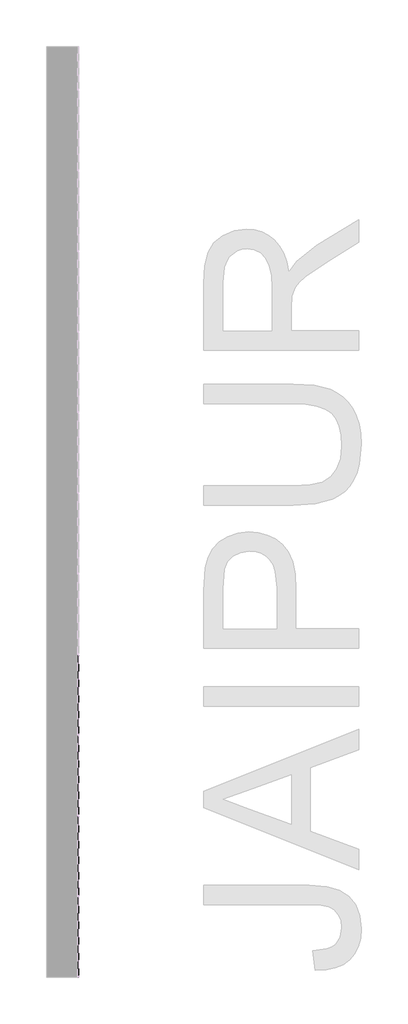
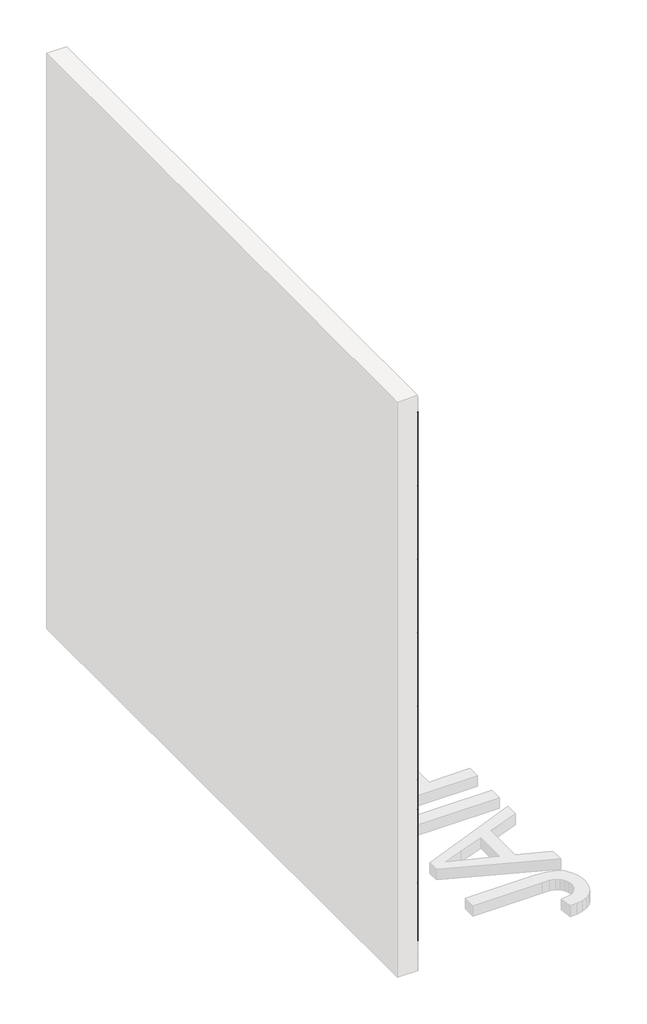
# One storey, part 15 of 45: 147 proxies.
"""IFC4 building model written with IfcOpenShell, lengths in millimetres."""

from ifc_helpers import new_model, si_unit, origin, place, context, project, spatial, transform, mapped, element, save
from components import generic_models_ab0f2c30

model = new_model("IFC4")

# Units and contexts
model_context = context("Model", 3, world=origin())
ifc_project = project(units=[si_unit("LENGTHUNIT", "METRE", prefix="MILLI")], contexts=[model_context])

# Site, building, storey
site = spatial("IfcSite", under=ifc_project)
building = spatial("IfcBuilding", under=site)
storey = spatial("IfcBuildingStorey", under=building, Name="PORTOBELLO - SHOWROOM", Elevation=0.0)

# Proxies
placement = place(None, origin())
generic_models_shape = generic_models_ab0f2c30(model_context)
element("IfcBuildingElementProxy", 1, Name="PBSHOP - HORIZONTES JAIPUR 6,5X23 : JAIPUR", ObjectType="PBSHOP - HORIZONTES JAIPUR 6,5X23 : JAIPUR", at=placement, inside=storey, context=model_context, shape_type="MappedRepresentation", body=[
    mapped(generic_models_shape, transform((69111.8826867, 1337.9760255, 103.5), x_axis=(0.0, 0.0, 1.0), y_axis=(0.0, -1.0, 0.0), z_axis=(1.0, 0.0, 0.0))),
])
element("IfcBuildingElementProxy", 2, Name="PBSHOP - HORIZONTES JAIPUR 6,5X23 : JAIPUR", ObjectType="PBSHOP - HORIZONTES JAIPUR 6,5X23 : JAIPUR", at=placement, inside=storey, context=model_context, shape_type="MappedRepresentation", body=[
    mapped(generic_models_shape, transform((69111.8826867, 1571.9760255, 103.5), x_axis=(0.0, 0.0, 1.0), y_axis=(0.0, -1.0, 0.0), z_axis=(1.0, 0.0, 0.0))),
])
element("IfcBuildingElementProxy", 3, Name="PBSHOP - HORIZONTES JAIPUR 6,5X23 : JAIPUR", ObjectType="PBSHOP - HORIZONTES JAIPUR 6,5X23 : JAIPUR", at=placement, inside=storey, context=model_context, shape_type="MappedRepresentation", body=[
    mapped(generic_models_shape, transform((69111.8826867, 1805.9760255, 103.5), x_axis=(0.0, 0.0, 1.0), y_axis=(0.0, -1.0, 0.0), z_axis=(1.0, 0.0, 0.0))),
])
element("IfcBuildingElementProxy", 4, Name="PBSHOP - HORIZONTES JAIPUR 6,5X23 : JAIPUR", ObjectType="PBSHOP - HORIZONTES JAIPUR 6,5X23 : JAIPUR", at=placement, inside=storey, context=model_context, shape_type="MappedRepresentation", body=[
    mapped(generic_models_shape, transform((69111.8826867, 1103.9760255, 172.5), x_axis=(0.0, 0.0, 1.0), y_axis=(0.0, -1.0, 0.0), z_axis=(1.0, 0.0, 0.0))),
])
element("IfcBuildingElementProxy", 5, Name="PBSHOP - HORIZONTES JAIPUR 6,5X23 : JAIPUR", ObjectType="PBSHOP - HORIZONTES JAIPUR 6,5X23 : JAIPUR", at=placement, inside=storey, context=model_context, shape_type="MappedRepresentation", body=[
    mapped(generic_models_shape, transform((69111.8826867, 1337.9760255, 172.5), x_axis=(0.0, 0.0, 1.0), y_axis=(0.0, -1.0, 0.0), z_axis=(1.0, 0.0, 0.0))),
])
element("IfcBuildingElementProxy", 6, Name="PBSHOP - HORIZONTES JAIPUR 6,5X23 : JAIPUR", ObjectType="PBSHOP - HORIZONTES JAIPUR 6,5X23 : JAIPUR", at=placement, inside=storey, context=model_context, shape_type="MappedRepresentation", body=[
    mapped(generic_models_shape, transform((69111.8826867, 1571.9760255, 172.5), x_axis=(0.0, 0.0, 1.0), y_axis=(0.0, -1.0, 0.0), z_axis=(1.0, 0.0, 0.0))),
])
element("IfcBuildingElementProxy", 7, Name="PBSHOP - HORIZONTES JAIPUR 6,5X23 : JAIPUR", ObjectType="PBSHOP - HORIZONTES JAIPUR 6,5X23 : JAIPUR", at=placement, inside=storey, context=model_context, shape_type="MappedRepresentation", body=[
    mapped(generic_models_shape, transform((69111.8826867, 1805.9760255, 172.5), x_axis=(0.0, 0.0, 1.0), y_axis=(0.0, -1.0, 0.0), z_axis=(1.0, 0.0, 0.0))),
])
element("IfcBuildingElementProxy", 8, Name="PBSHOP - HORIZONTES JAIPUR 6,5X23 : JAIPUR", ObjectType="PBSHOP - HORIZONTES JAIPUR 6,5X23 : JAIPUR", at=placement, inside=storey, context=model_context, shape_type="MappedRepresentation", body=[
    mapped(generic_models_shape, transform((69111.8826867, 1103.9760255, 241.5), x_axis=(0.0, 0.0, 1.0), y_axis=(0.0, -1.0, 0.0), z_axis=(1.0, 0.0, 0.0))),
])
element("IfcBuildingElementProxy", 9, Name="PBSHOP - HORIZONTES JAIPUR 6,5X23 : JAIPUR", ObjectType="PBSHOP - HORIZONTES JAIPUR 6,5X23 : JAIPUR", at=placement, inside=storey, context=model_context, shape_type="MappedRepresentation", body=[
    mapped(generic_models_shape, transform((69111.8826867, 1337.9760255, 241.5), x_axis=(0.0, 0.0, 1.0), y_axis=(0.0, -1.0, 0.0), z_axis=(1.0, 0.0, 0.0))),
])
element("IfcBuildingElementProxy", 10, Name="PBSHOP - HORIZONTES JAIPUR 6,5X23 : JAIPUR", ObjectType="PBSHOP - HORIZONTES JAIPUR 6,5X23 : JAIPUR", at=placement, inside=storey, context=model_context, shape_type="MappedRepresentation", body=[
    mapped(generic_models_shape, transform((69111.8826867, 1571.9760255, 241.5), x_axis=(0.0, 0.0, 1.0), y_axis=(0.0, -1.0, 0.0), z_axis=(1.0, 0.0, 0.0))),
])
element("IfcBuildingElementProxy", 11, Name="PBSHOP - HORIZONTES JAIPUR 6,5X23 : JAIPUR", ObjectType="PBSHOP - HORIZONTES JAIPUR 6,5X23 : JAIPUR", at=placement, inside=storey, context=model_context, shape_type="MappedRepresentation", body=[
    mapped(generic_models_shape, transform((69111.8826867, 1805.9760255, 241.5), x_axis=(0.0, 0.0, 1.0), y_axis=(0.0, -1.0, 0.0), z_axis=(1.0, 0.0, 0.0))),
])
element("IfcBuildingElementProxy", 12, Name="PBSHOP - HORIZONTES JAIPUR 6,5X23 : JAIPUR", ObjectType="PBSHOP - HORIZONTES JAIPUR 6,5X23 : JAIPUR", at=placement, inside=storey, context=model_context, shape_type="MappedRepresentation", body=[
    mapped(generic_models_shape, transform((69111.8826867, 1103.9760255, 310.5), x_axis=(0.0, 0.0, 1.0), y_axis=(0.0, -1.0, 0.0), z_axis=(1.0, 0.0, 0.0))),
])
element("IfcBuildingElementProxy", 13, Name="PBSHOP - HORIZONTES JAIPUR 6,5X23 : JAIPUR", ObjectType="PBSHOP - HORIZONTES JAIPUR 6,5X23 : JAIPUR", at=placement, inside=storey, context=model_context, shape_type="MappedRepresentation", body=[
    mapped(generic_models_shape, transform((69111.8826867, 1337.9760255, 310.5), x_axis=(0.0, 0.0, 1.0), y_axis=(0.0, -1.0, 0.0), z_axis=(1.0, 0.0, 0.0))),
])
element("IfcBuildingElementProxy", 14, Name="PBSHOP - HORIZONTES JAIPUR 6,5X23 : JAIPUR", ObjectType="PBSHOP - HORIZONTES JAIPUR 6,5X23 : JAIPUR", at=placement, inside=storey, context=model_context, shape_type="MappedRepresentation", body=[
    mapped(generic_models_shape, transform((69111.8826867, 1571.9760255, 310.5), x_axis=(0.0, 0.0, 1.0), y_axis=(0.0, -1.0, 0.0), z_axis=(1.0, 0.0, 0.0))),
])
element("IfcBuildingElementProxy", 15, Name="PBSHOP - HORIZONTES JAIPUR 6,5X23 : JAIPUR", ObjectType="PBSHOP - HORIZONTES JAIPUR 6,5X23 : JAIPUR", at=placement, inside=storey, context=model_context, shape_type="MappedRepresentation", body=[
    mapped(generic_models_shape, transform((69111.8826867, 1805.9760255, 310.5), x_axis=(0.0, 0.0, 1.0), y_axis=(0.0, -1.0, 0.0), z_axis=(1.0, 0.0, 0.0))),
])
element("IfcBuildingElementProxy", 16, Name="PBSHOP - HORIZONTES JAIPUR 6,5X23 : JAIPUR", ObjectType="PBSHOP - HORIZONTES JAIPUR 6,5X23 : JAIPUR", at=placement, inside=storey, context=model_context, shape_type="MappedRepresentation", body=[
    mapped(generic_models_shape, transform((69111.8826867, 1103.9760255, 379.5), x_axis=(0.0, 0.0, 1.0), y_axis=(0.0, -1.0, 0.0), z_axis=(1.0, 0.0, 0.0))),
])
element("IfcBuildingElementProxy", 17, Name="PBSHOP - HORIZONTES JAIPUR 6,5X23 : JAIPUR", ObjectType="PBSHOP - HORIZONTES JAIPUR 6,5X23 : JAIPUR", at=placement, inside=storey, context=model_context, shape_type="MappedRepresentation", body=[
    mapped(generic_models_shape, transform((69111.8826867, 1337.9760255, 379.5), x_axis=(0.0, 0.0, 1.0), y_axis=(0.0, -1.0, 0.0), z_axis=(1.0, 0.0, 0.0))),
])
element("IfcBuildingElementProxy", 18, Name="PBSHOP - HORIZONTES JAIPUR 6,5X23 : JAIPUR", ObjectType="PBSHOP - HORIZONTES JAIPUR 6,5X23 : JAIPUR", at=placement, inside=storey, context=model_context, shape_type="MappedRepresentation", body=[
    mapped(generic_models_shape, transform((69111.8826867, 1571.9760255, 379.5), x_axis=(0.0, 0.0, 1.0), y_axis=(0.0, -1.0, 0.0), z_axis=(1.0, 0.0, 0.0))),
])
element("IfcBuildingElementProxy", 19, Name="PBSHOP - HORIZONTES JAIPUR 6,5X23 : JAIPUR", ObjectType="PBSHOP - HORIZONTES JAIPUR 6,5X23 : JAIPUR", at=placement, inside=storey, context=model_context, shape_type="MappedRepresentation", body=[
    mapped(generic_models_shape, transform((69111.8826867, 1805.9760255, 379.5), x_axis=(0.0, 0.0, 1.0), y_axis=(0.0, -1.0, 0.0), z_axis=(1.0, 0.0, 0.0))),
])
element("IfcBuildingElementProxy", 20, Name="PBSHOP - HORIZONTES JAIPUR 6,5X23 : JAIPUR", ObjectType="PBSHOP - HORIZONTES JAIPUR 6,5X23 : JAIPUR", at=placement, inside=storey, context=model_context, shape_type="MappedRepresentation", body=[
    mapped(generic_models_shape, transform((69111.8826867, 1103.9760255, 448.5), x_axis=(0.0, 0.0, 1.0), y_axis=(0.0, -1.0, 0.0), z_axis=(1.0, 0.0, 0.0))),
])
element("IfcBuildingElementProxy", 21, Name="PBSHOP - HORIZONTES JAIPUR 6,5X23 : JAIPUR", ObjectType="PBSHOP - HORIZONTES JAIPUR 6,5X23 : JAIPUR", at=placement, inside=storey, context=model_context, shape_type="MappedRepresentation", body=[
    mapped(generic_models_shape, transform((69111.8826867, 1337.9760255, 448.5), x_axis=(0.0, 0.0, 1.0), y_axis=(0.0, -1.0, 0.0), z_axis=(1.0, 0.0, 0.0))),
])
element("IfcBuildingElementProxy", 22, Name="PBSHOP - HORIZONTES JAIPUR 6,5X23 : JAIPUR", ObjectType="PBSHOP - HORIZONTES JAIPUR 6,5X23 : JAIPUR", at=placement, inside=storey, context=model_context, shape_type="MappedRepresentation", body=[
    mapped(generic_models_shape, transform((69111.8826867, 1571.9760255, 448.5), x_axis=(0.0, 0.0, 1.0), y_axis=(0.0, -1.0, 0.0), z_axis=(1.0, 0.0, 0.0))),
])
element("IfcBuildingElementProxy", 23, Name="PBSHOP - HORIZONTES JAIPUR 6,5X23 : JAIPUR", ObjectType="PBSHOP - HORIZONTES JAIPUR 6,5X23 : JAIPUR", at=placement, inside=storey, context=model_context, shape_type="MappedRepresentation", body=[
    mapped(generic_models_shape, transform((69111.8826867, 1805.9760255, 448.5), x_axis=(0.0, 0.0, 1.0), y_axis=(0.0, -1.0, 0.0), z_axis=(1.0, 0.0, 0.0))),
])
element("IfcBuildingElementProxy", 24, Name="PBSHOP - HORIZONTES JAIPUR 6,5X23 : JAIPUR", ObjectType="PBSHOP - HORIZONTES JAIPUR 6,5X23 : JAIPUR", at=placement, inside=storey, context=model_context, shape_type="MappedRepresentation", body=[
    mapped(generic_models_shape, transform((69111.8826867, 1103.9760255, 517.5), x_axis=(0.0, 0.0, 1.0), y_axis=(0.0, -1.0, 0.0), z_axis=(1.0, 0.0, 0.0))),
])
element("IfcBuildingElementProxy", 25, Name="PBSHOP - HORIZONTES JAIPUR 6,5X23 : JAIPUR", ObjectType="PBSHOP - HORIZONTES JAIPUR 6,5X23 : JAIPUR", at=placement, inside=storey, context=model_context, shape_type="MappedRepresentation", body=[
    mapped(generic_models_shape, transform((69111.8826867, 1337.9760255, 517.5), x_axis=(0.0, 0.0, 1.0), y_axis=(0.0, -1.0, 0.0), z_axis=(1.0, 0.0, 0.0))),
])
element("IfcBuildingElementProxy", 26, Name="PBSHOP - HORIZONTES JAIPUR 6,5X23 : JAIPUR", ObjectType="PBSHOP - HORIZONTES JAIPUR 6,5X23 : JAIPUR", at=placement, inside=storey, context=model_context, shape_type="MappedRepresentation", body=[
    mapped(generic_models_shape, transform((69111.8826867, 1571.9760255, 517.5), x_axis=(0.0, 0.0, 1.0), y_axis=(0.0, -1.0, 0.0), z_axis=(1.0, 0.0, 0.0))),
])
element("IfcBuildingElementProxy", 27, Name="PBSHOP - HORIZONTES JAIPUR 6,5X23 : JAIPUR", ObjectType="PBSHOP - HORIZONTES JAIPUR 6,5X23 : JAIPUR", at=placement, inside=storey, context=model_context, shape_type="MappedRepresentation", body=[
    mapped(generic_models_shape, transform((69111.8826867, 1805.9760255, 517.5), x_axis=(0.0, 0.0, 1.0), y_axis=(0.0, -1.0, 0.0), z_axis=(1.0, 0.0, 0.0))),
])
element("IfcBuildingElementProxy", 28, Name="PBSHOP - HORIZONTES JAIPUR 6,5X23 : JAIPUR", ObjectType="PBSHOP - HORIZONTES JAIPUR 6,5X23 : JAIPUR", at=placement, inside=storey, context=model_context, shape_type="MappedRepresentation", body=[
    mapped(generic_models_shape, transform((69111.8826867, 1103.9760255, 586.5), x_axis=(0.0, 0.0, 1.0), y_axis=(0.0, -1.0, 0.0), z_axis=(1.0, 0.0, 0.0))),
])
element("IfcBuildingElementProxy", 29, Name="PBSHOP - HORIZONTES JAIPUR 6,5X23 : JAIPUR", ObjectType="PBSHOP - HORIZONTES JAIPUR 6,5X23 : JAIPUR", at=placement, inside=storey, context=model_context, shape_type="MappedRepresentation", body=[
    mapped(generic_models_shape, transform((69111.8826867, 1337.9760255, 586.5), x_axis=(0.0, 0.0, 1.0), y_axis=(0.0, -1.0, 0.0), z_axis=(1.0, 0.0, 0.0))),
])
element("IfcBuildingElementProxy", 30, Name="PBSHOP - HORIZONTES JAIPUR 6,5X23 : JAIPUR", ObjectType="PBSHOP - HORIZONTES JAIPUR 6,5X23 : JAIPUR", at=placement, inside=storey, context=model_context, shape_type="MappedRepresentation", body=[
    mapped(generic_models_shape, transform((69111.8826867, 1571.9760255, 586.5), x_axis=(0.0, 0.0, 1.0), y_axis=(0.0, -1.0, 0.0), z_axis=(1.0, 0.0, 0.0))),
])
element("IfcBuildingElementProxy", 31, Name="PBSHOP - HORIZONTES JAIPUR 6,5X23 : JAIPUR", ObjectType="PBSHOP - HORIZONTES JAIPUR 6,5X23 : JAIPUR", at=placement, inside=storey, context=model_context, shape_type="MappedRepresentation", body=[
    mapped(generic_models_shape, transform((69111.8826867, 1805.9760255, 586.5), x_axis=(0.0, 0.0, 1.0), y_axis=(0.0, -1.0, 0.0), z_axis=(1.0, 0.0, 0.0))),
])
element("IfcBuildingElementProxy", 32, Name="PBSHOP - HORIZONTES JAIPUR 6,5X23 : JAIPUR", ObjectType="PBSHOP - HORIZONTES JAIPUR 6,5X23 : JAIPUR", at=placement, inside=storey, context=model_context, shape_type="MappedRepresentation", body=[
    mapped(generic_models_shape, transform((69111.8826867, 1103.9760255, 655.5), x_axis=(0.0, 0.0, 1.0), y_axis=(0.0, -1.0, 0.0), z_axis=(1.0, 0.0, 0.0))),
])
element("IfcBuildingElementProxy", 33, Name="PBSHOP - HORIZONTES JAIPUR 6,5X23 : JAIPUR", ObjectType="PBSHOP - HORIZONTES JAIPUR 6,5X23 : JAIPUR", at=placement, inside=storey, context=model_context, shape_type="MappedRepresentation", body=[
    mapped(generic_models_shape, transform((69111.8826867, 1337.9760255, 655.5), x_axis=(0.0, 0.0, 1.0), y_axis=(0.0, -1.0, 0.0), z_axis=(1.0, 0.0, 0.0))),
])
element("IfcBuildingElementProxy", 34, Name="PBSHOP - HORIZONTES JAIPUR 6,5X23 : JAIPUR", ObjectType="PBSHOP - HORIZONTES JAIPUR 6,5X23 : JAIPUR", at=placement, inside=storey, context=model_context, shape_type="MappedRepresentation", body=[
    mapped(generic_models_shape, transform((69111.8826867, 1571.9760255, 655.5), x_axis=(0.0, 0.0, 1.0), y_axis=(0.0, -1.0, 0.0), z_axis=(1.0, 0.0, 0.0))),
])
element("IfcBuildingElementProxy", 35, Name="PBSHOP - HORIZONTES JAIPUR 6,5X23 : JAIPUR", ObjectType="PBSHOP - HORIZONTES JAIPUR 6,5X23 : JAIPUR", at=placement, inside=storey, context=model_context, shape_type="MappedRepresentation", body=[
    mapped(generic_models_shape, transform((69111.8826867, 1805.9760255, 655.5), x_axis=(0.0, 0.0, 1.0), y_axis=(0.0, -1.0, 0.0), z_axis=(1.0, 0.0, 0.0))),
])
element("IfcBuildingElementProxy", 36, Name="PBSHOP - HORIZONTES JAIPUR 6,5X23 : JAIPUR", ObjectType="PBSHOP - HORIZONTES JAIPUR 6,5X23 : JAIPUR", at=placement, inside=storey, context=model_context, shape_type="MappedRepresentation", body=[
    mapped(generic_models_shape, transform((69111.8826867, 1103.9760255, 724.5), x_axis=(0.0, 0.0, 1.0), y_axis=(0.0, -1.0, 0.0), z_axis=(1.0, 0.0, 0.0))),
])
element("IfcBuildingElementProxy", 37, Name="PBSHOP - HORIZONTES JAIPUR 6,5X23 : JAIPUR", ObjectType="PBSHOP - HORIZONTES JAIPUR 6,5X23 : JAIPUR", at=placement, inside=storey, context=model_context, shape_type="MappedRepresentation", body=[
    mapped(generic_models_shape, transform((69111.8826867, 1337.9760255, 724.5), x_axis=(0.0, 0.0, 1.0), y_axis=(0.0, -1.0, 0.0), z_axis=(1.0, 0.0, 0.0))),
])
element("IfcBuildingElementProxy", 38, Name="PBSHOP - HORIZONTES JAIPUR 6,5X23 : JAIPUR", ObjectType="PBSHOP - HORIZONTES JAIPUR 6,5X23 : JAIPUR", at=placement, inside=storey, context=model_context, shape_type="MappedRepresentation", body=[
    mapped(generic_models_shape, transform((69111.8826867, 1571.9760255, 724.5), x_axis=(0.0, 0.0, 1.0), y_axis=(0.0, -1.0, 0.0), z_axis=(1.0, 0.0, 0.0))),
])
element("IfcBuildingElementProxy", 39, Name="PBSHOP - HORIZONTES JAIPUR 6,5X23 : JAIPUR", ObjectType="PBSHOP - HORIZONTES JAIPUR 6,5X23 : JAIPUR", at=placement, inside=storey, context=model_context, shape_type="MappedRepresentation", body=[
    mapped(generic_models_shape, transform((69111.8826867, 1805.9760255, 724.5), x_axis=(0.0, 0.0, 1.0), y_axis=(0.0, -1.0, 0.0), z_axis=(1.0, 0.0, 0.0))),
])
element("IfcBuildingElementProxy", 40, Name="PBSHOP - HORIZONTES JAIPUR 6,5X23 : JAIPUR", ObjectType="PBSHOP - HORIZONTES JAIPUR 6,5X23 : JAIPUR", at=placement, inside=storey, context=model_context, shape_type="MappedRepresentation", body=[
    mapped(generic_models_shape, transform((69111.8826867, 1103.9760255, 793.5), x_axis=(0.0, 0.0, 1.0), y_axis=(0.0, -1.0, 0.0), z_axis=(1.0, 0.0, 0.0))),
])
element("IfcBuildingElementProxy", 41, Name="PBSHOP - HORIZONTES JAIPUR 6,5X23 : JAIPUR", ObjectType="PBSHOP - HORIZONTES JAIPUR 6,5X23 : JAIPUR", at=placement, inside=storey, context=model_context, shape_type="MappedRepresentation", body=[
    mapped(generic_models_shape, transform((69111.8826867, 1337.9760255, 793.5), x_axis=(0.0, 0.0, 1.0), y_axis=(0.0, -1.0, 0.0), z_axis=(1.0, 0.0, 0.0))),
])
element("IfcBuildingElementProxy", 42, Name="PBSHOP - HORIZONTES JAIPUR 6,5X23 : JAIPUR", ObjectType="PBSHOP - HORIZONTES JAIPUR 6,5X23 : JAIPUR", at=placement, inside=storey, context=model_context, shape_type="MappedRepresentation", body=[
    mapped(generic_models_shape, transform((69111.8826867, 1571.9760255, 793.5), x_axis=(0.0, 0.0, 1.0), y_axis=(0.0, -1.0, 0.0), z_axis=(1.0, 0.0, 0.0))),
])
element("IfcBuildingElementProxy", 43, Name="PBSHOP - HORIZONTES JAIPUR 6,5X23 : JAIPUR", ObjectType="PBSHOP - HORIZONTES JAIPUR 6,5X23 : JAIPUR", at=placement, inside=storey, context=model_context, shape_type="MappedRepresentation", body=[
    mapped(generic_models_shape, transform((69111.8826867, 1805.9760255, 793.5), x_axis=(0.0, 0.0, 1.0), y_axis=(0.0, -1.0, 0.0), z_axis=(1.0, 0.0, 0.0))),
])
element("IfcBuildingElementProxy", 44, Name="PBSHOP - HORIZONTES JAIPUR 6,5X23 : JAIPUR", ObjectType="PBSHOP - HORIZONTES JAIPUR 6,5X23 : JAIPUR", at=placement, inside=storey, context=model_context, shape_type="MappedRepresentation", body=[
    mapped(generic_models_shape, transform((69111.8826867, 1103.9760255, 862.5), x_axis=(0.0, 0.0, 1.0), y_axis=(0.0, -1.0, 0.0), z_axis=(1.0, 0.0, 0.0))),
])
element("IfcBuildingElementProxy", 45, Name="PBSHOP - HORIZONTES JAIPUR 6,5X23 : JAIPUR", ObjectType="PBSHOP - HORIZONTES JAIPUR 6,5X23 : JAIPUR", at=placement, inside=storey, context=model_context, shape_type="MappedRepresentation", body=[
    mapped(generic_models_shape, transform((69111.8826867, 1337.9760255, 862.5), x_axis=(0.0, 0.0, 1.0), y_axis=(0.0, -1.0, 0.0), z_axis=(1.0, 0.0, 0.0))),
])
element("IfcBuildingElementProxy", 46, Name="PBSHOP - HORIZONTES JAIPUR 6,5X23 : JAIPUR", ObjectType="PBSHOP - HORIZONTES JAIPUR 6,5X23 : JAIPUR", at=placement, inside=storey, context=model_context, shape_type="MappedRepresentation", body=[
    mapped(generic_models_shape, transform((69111.8826867, 1571.9760255, 862.5), x_axis=(0.0, 0.0, 1.0), y_axis=(0.0, -1.0, 0.0), z_axis=(1.0, 0.0, 0.0))),
])
element("IfcBuildingElementProxy", 47, Name="PBSHOP - HORIZONTES JAIPUR 6,5X23 : JAIPUR", ObjectType="PBSHOP - HORIZONTES JAIPUR 6,5X23 : JAIPUR", at=placement, inside=storey, context=model_context, shape_type="MappedRepresentation", body=[
    mapped(generic_models_shape, transform((69111.8826867, 1805.9760255, 862.5), x_axis=(0.0, 0.0, 1.0), y_axis=(0.0, -1.0, 0.0), z_axis=(1.0, 0.0, 0.0))),
])
element("IfcBuildingElementProxy", 48, Name="PBSHOP - HORIZONTES JAIPUR 6,5X23 : JAIPUR", ObjectType="PBSHOP - HORIZONTES JAIPUR 6,5X23 : JAIPUR", at=placement, inside=storey, context=model_context, shape_type="MappedRepresentation", body=[
    mapped(generic_models_shape, transform((69111.8826867, 1103.9760255, 931.5), x_axis=(0.0, 0.0, 1.0), y_axis=(0.0, -1.0, 0.0), z_axis=(1.0, 0.0, 0.0))),
])
element("IfcBuildingElementProxy", 49, Name="PBSHOP - HORIZONTES JAIPUR 6,5X23 : JAIPUR", ObjectType="PBSHOP - HORIZONTES JAIPUR 6,5X23 : JAIPUR", at=placement, inside=storey, context=model_context, shape_type="MappedRepresentation", body=[
    mapped(generic_models_shape, transform((69111.8826867, 1337.9760255, 931.5), x_axis=(0.0, 0.0, 1.0), y_axis=(0.0, -1.0, 0.0), z_axis=(1.0, 0.0, 0.0))),
])
element("IfcBuildingElementProxy", 50, Name="PBSHOP - HORIZONTES JAIPUR 6,5X23 : JAIPUR", ObjectType="PBSHOP - HORIZONTES JAIPUR 6,5X23 : JAIPUR", at=placement, inside=storey, context=model_context, shape_type="MappedRepresentation", body=[
    mapped(generic_models_shape, transform((69111.8826867, 1571.9760255, 931.5), x_axis=(0.0, 0.0, 1.0), y_axis=(0.0, -1.0, 0.0), z_axis=(1.0, 0.0, 0.0))),
])
element("IfcBuildingElementProxy", 51, Name="PBSHOP - HORIZONTES JAIPUR 6,5X23 : JAIPUR", ObjectType="PBSHOP - HORIZONTES JAIPUR 6,5X23 : JAIPUR", at=placement, inside=storey, context=model_context, shape_type="MappedRepresentation", body=[
    mapped(generic_models_shape, transform((69111.8826867, 1805.9760255, 931.5), x_axis=(0.0, 0.0, 1.0), y_axis=(0.0, -1.0, 0.0), z_axis=(1.0, 0.0, 0.0))),
])
element("IfcBuildingElementProxy", 52, Name="PBSHOP - HORIZONTES JAIPUR 6,5X23 : JAIPUR", ObjectType="PBSHOP - HORIZONTES JAIPUR 6,5X23 : JAIPUR", at=placement, inside=storey, context=model_context, shape_type="MappedRepresentation", body=[
    mapped(generic_models_shape, transform((69111.8826867, 1103.9760255, 1000.5), x_axis=(0.0, 0.0, 1.0), y_axis=(0.0, -1.0, 0.0), z_axis=(1.0, 0.0, 0.0))),
])
element("IfcBuildingElementProxy", 53, Name="PBSHOP - HORIZONTES JAIPUR 6,5X23 : JAIPUR", ObjectType="PBSHOP - HORIZONTES JAIPUR 6,5X23 : JAIPUR", at=placement, inside=storey, context=model_context, shape_type="MappedRepresentation", body=[
    mapped(generic_models_shape, transform((69111.8826867, 1337.9760255, 1000.5), x_axis=(0.0, 0.0, 1.0), y_axis=(0.0, -1.0, 0.0), z_axis=(1.0, 0.0, 0.0))),
])
element("IfcBuildingElementProxy", 54, Name="PBSHOP - HORIZONTES JAIPUR 6,5X23 : JAIPUR", ObjectType="PBSHOP - HORIZONTES JAIPUR 6,5X23 : JAIPUR", at=placement, inside=storey, context=model_context, shape_type="MappedRepresentation", body=[
    mapped(generic_models_shape, transform((69111.8826867, 1571.9760255, 1000.5), x_axis=(0.0, 0.0, 1.0), y_axis=(0.0, -1.0, 0.0), z_axis=(1.0, 0.0, 0.0))),
])
element("IfcBuildingElementProxy", 55, Name="PBSHOP - HORIZONTES JAIPUR 6,5X23 : JAIPUR", ObjectType="PBSHOP - HORIZONTES JAIPUR 6,5X23 : JAIPUR", at=placement, inside=storey, context=model_context, shape_type="MappedRepresentation", body=[
    mapped(generic_models_shape, transform((69111.8826867, 1805.9760255, 1000.5), x_axis=(0.0, 0.0, 1.0), y_axis=(0.0, -1.0, 0.0), z_axis=(1.0, 0.0, 0.0))),
])
element("IfcBuildingElementProxy", 56, Name="PBSHOP - HORIZONTES JAIPUR 6,5X23 : JAIPUR", ObjectType="PBSHOP - HORIZONTES JAIPUR 6,5X23 : JAIPUR", at=placement, inside=storey, context=model_context, shape_type="MappedRepresentation", body=[
    mapped(generic_models_shape, transform((69111.8826867, 1103.9760255, 1069.5), x_axis=(0.0, 0.0, 1.0), y_axis=(0.0, -1.0, 0.0), z_axis=(1.0, 0.0, 0.0))),
])
element("IfcBuildingElementProxy", 57, Name="PBSHOP - HORIZONTES JAIPUR 6,5X23 : JAIPUR", ObjectType="PBSHOP - HORIZONTES JAIPUR 6,5X23 : JAIPUR", at=placement, inside=storey, context=model_context, shape_type="MappedRepresentation", body=[
    mapped(generic_models_shape, transform((69111.8826867, 1337.9760255, 1069.5), x_axis=(0.0, 0.0, 1.0), y_axis=(0.0, -1.0, 0.0), z_axis=(1.0, 0.0, 0.0))),
])
element("IfcBuildingElementProxy", 58, Name="PBSHOP - HORIZONTES JAIPUR 6,5X23 : JAIPUR", ObjectType="PBSHOP - HORIZONTES JAIPUR 6,5X23 : JAIPUR", at=placement, inside=storey, context=model_context, shape_type="MappedRepresentation", body=[
    mapped(generic_models_shape, transform((69111.8826867, 1571.9760255, 1069.5), x_axis=(0.0, 0.0, 1.0), y_axis=(0.0, -1.0, 0.0), z_axis=(1.0, 0.0, 0.0))),
])
element("IfcBuildingElementProxy", 59, Name="PBSHOP - HORIZONTES JAIPUR 6,5X23 : JAIPUR", ObjectType="PBSHOP - HORIZONTES JAIPUR 6,5X23 : JAIPUR", at=placement, inside=storey, context=model_context, shape_type="MappedRepresentation", body=[
    mapped(generic_models_shape, transform((69111.8826867, 1805.9760255, 1069.5), x_axis=(0.0, 0.0, 1.0), y_axis=(0.0, -1.0, 0.0), z_axis=(1.0, 0.0, 0.0))),
])
element("IfcBuildingElementProxy", 60, Name="PBSHOP - HORIZONTES JAIPUR 6,5X23 : JAIPUR", ObjectType="PBSHOP - HORIZONTES JAIPUR 6,5X23 : JAIPUR", at=placement, inside=storey, context=model_context, shape_type="MappedRepresentation", body=[
    mapped(generic_models_shape, transform((69111.8826867, 1103.9760255, 1138.5), x_axis=(0.0, 0.0, 1.0), y_axis=(0.0, -1.0, 0.0), z_axis=(1.0, 0.0, 0.0))),
])
element("IfcBuildingElementProxy", 61, Name="PBSHOP - HORIZONTES JAIPUR 6,5X23 : JAIPUR", ObjectType="PBSHOP - HORIZONTES JAIPUR 6,5X23 : JAIPUR", at=placement, inside=storey, context=model_context, shape_type="MappedRepresentation", body=[
    mapped(generic_models_shape, transform((69111.8826867, 1337.9760255, 1138.5), x_axis=(0.0, 0.0, 1.0), y_axis=(0.0, -1.0, 0.0), z_axis=(1.0, 0.0, 0.0))),
])
element("IfcBuildingElementProxy", 62, Name="PBSHOP - HORIZONTES JAIPUR 6,5X23 : JAIPUR", ObjectType="PBSHOP - HORIZONTES JAIPUR 6,5X23 : JAIPUR", at=placement, inside=storey, context=model_context, shape_type="MappedRepresentation", body=[
    mapped(generic_models_shape, transform((69111.8826867, 1571.9760255, 1138.5), x_axis=(0.0, 0.0, 1.0), y_axis=(0.0, -1.0, 0.0), z_axis=(1.0, 0.0, 0.0))),
])
element("IfcBuildingElementProxy", 63, Name="PBSHOP - HORIZONTES JAIPUR 6,5X23 : JAIPUR", ObjectType="PBSHOP - HORIZONTES JAIPUR 6,5X23 : JAIPUR", at=placement, inside=storey, context=model_context, shape_type="MappedRepresentation", body=[
    mapped(generic_models_shape, transform((69111.8826867, 1805.9760255, 1138.5), x_axis=(0.0, 0.0, 1.0), y_axis=(0.0, -1.0, 0.0), z_axis=(1.0, 0.0, 0.0))),
])
element("IfcBuildingElementProxy", 64, Name="PBSHOP - HORIZONTES JAIPUR 6,5X23 : JAIPUR", ObjectType="PBSHOP - HORIZONTES JAIPUR 6,5X23 : JAIPUR", at=placement, inside=storey, context=model_context, shape_type="MappedRepresentation", body=[
    mapped(generic_models_shape, transform((69111.8826867, 1103.9760255, 1207.5), x_axis=(0.0, 0.0, 1.0), y_axis=(0.0, -1.0, 0.0), z_axis=(1.0, 0.0, 0.0))),
])
element("IfcBuildingElementProxy", 65, Name="PBSHOP - HORIZONTES JAIPUR 6,5X23 : JAIPUR", ObjectType="PBSHOP - HORIZONTES JAIPUR 6,5X23 : JAIPUR", at=placement, inside=storey, context=model_context, shape_type="MappedRepresentation", body=[
    mapped(generic_models_shape, transform((69111.8826867, 1337.9760255, 1207.5), x_axis=(0.0, 0.0, 1.0), y_axis=(0.0, -1.0, 0.0), z_axis=(1.0, 0.0, 0.0))),
])
element("IfcBuildingElementProxy", 66, Name="PBSHOP - HORIZONTES JAIPUR 6,5X23 : JAIPUR", ObjectType="PBSHOP - HORIZONTES JAIPUR 6,5X23 : JAIPUR", at=placement, inside=storey, context=model_context, shape_type="MappedRepresentation", body=[
    mapped(generic_models_shape, transform((69111.8826867, 1571.9760255, 1207.5), x_axis=(0.0, 0.0, 1.0), y_axis=(0.0, -1.0, 0.0), z_axis=(1.0, 0.0, 0.0))),
])
element("IfcBuildingElementProxy", 67, Name="PBSHOP - HORIZONTES JAIPUR 6,5X23 : JAIPUR", ObjectType="PBSHOP - HORIZONTES JAIPUR 6,5X23 : JAIPUR", at=placement, inside=storey, context=model_context, shape_type="MappedRepresentation", body=[
    mapped(generic_models_shape, transform((69111.8826867, 1805.9760255, 1207.5), x_axis=(0.0, 0.0, 1.0), y_axis=(0.0, -1.0, 0.0), z_axis=(1.0, 0.0, 0.0))),
])
element("IfcBuildingElementProxy", 68, Name="PBSHOP - HORIZONTES JAIPUR 6,5X23 : JAIPUR", ObjectType="PBSHOP - HORIZONTES JAIPUR 6,5X23 : JAIPUR", at=placement, inside=storey, context=model_context, shape_type="MappedRepresentation", body=[
    mapped(generic_models_shape, transform((69111.8826867, 1103.9760255, 1276.5), x_axis=(0.0, 0.0, 1.0), y_axis=(0.0, -1.0, 0.0), z_axis=(1.0, 0.0, 0.0))),
])
element("IfcBuildingElementProxy", 69, Name="PBSHOP - HORIZONTES JAIPUR 6,5X23 : JAIPUR", ObjectType="PBSHOP - HORIZONTES JAIPUR 6,5X23 : JAIPUR", at=placement, inside=storey, context=model_context, shape_type="MappedRepresentation", body=[
    mapped(generic_models_shape, transform((69111.8826867, 1337.9760255, 1276.5), x_axis=(0.0, 0.0, 1.0), y_axis=(0.0, -1.0, 0.0), z_axis=(1.0, 0.0, 0.0))),
])
element("IfcBuildingElementProxy", 70, Name="PBSHOP - HORIZONTES JAIPUR 6,5X23 : JAIPUR", ObjectType="PBSHOP - HORIZONTES JAIPUR 6,5X23 : JAIPUR", at=placement, inside=storey, context=model_context, shape_type="MappedRepresentation", body=[
    mapped(generic_models_shape, transform((69111.8826867, 1571.9760255, 1276.5), x_axis=(0.0, 0.0, 1.0), y_axis=(0.0, -1.0, 0.0), z_axis=(1.0, 0.0, 0.0))),
])
element("IfcBuildingElementProxy", 71, Name="PBSHOP - HORIZONTES JAIPUR 6,5X23 : JAIPUR", ObjectType="PBSHOP - HORIZONTES JAIPUR 6,5X23 : JAIPUR", at=placement, inside=storey, context=model_context, shape_type="MappedRepresentation", body=[
    mapped(generic_models_shape, transform((69111.8826867, 1805.9760255, 1276.5), x_axis=(0.0, 0.0, 1.0), y_axis=(0.0, -1.0, 0.0), z_axis=(1.0, 0.0, 0.0))),
])
element("IfcBuildingElementProxy", 72, Name="PBSHOP - HORIZONTES JAIPUR 6,5X23 : JAIPUR", ObjectType="PBSHOP - HORIZONTES JAIPUR 6,5X23 : JAIPUR", at=placement, inside=storey, context=model_context, shape_type="MappedRepresentation", body=[
    mapped(generic_models_shape, transform((69111.8826867, 1103.9760255, 1345.5), x_axis=(0.0, 0.0, 1.0), y_axis=(0.0, -1.0, 0.0), z_axis=(1.0, 0.0, 0.0))),
])
element("IfcBuildingElementProxy", 73, Name="PBSHOP - HORIZONTES JAIPUR 6,5X23 : JAIPUR", ObjectType="PBSHOP - HORIZONTES JAIPUR 6,5X23 : JAIPUR", at=placement, inside=storey, context=model_context, shape_type="MappedRepresentation", body=[
    mapped(generic_models_shape, transform((69111.8826867, 1337.9760255, 1345.5), x_axis=(0.0, 0.0, 1.0), y_axis=(0.0, -1.0, 0.0), z_axis=(1.0, 0.0, 0.0))),
])
element("IfcBuildingElementProxy", 74, Name="PBSHOP - HORIZONTES JAIPUR 6,5X23 : JAIPUR", ObjectType="PBSHOP - HORIZONTES JAIPUR 6,5X23 : JAIPUR", at=placement, inside=storey, context=model_context, shape_type="MappedRepresentation", body=[
    mapped(generic_models_shape, transform((69111.8826867, 1571.9760255, 1345.5), x_axis=(0.0, 0.0, 1.0), y_axis=(0.0, -1.0, 0.0), z_axis=(1.0, 0.0, 0.0))),
])
element("IfcBuildingElementProxy", 75, Name="PBSHOP - HORIZONTES JAIPUR 6,5X23 : JAIPUR", ObjectType="PBSHOP - HORIZONTES JAIPUR 6,5X23 : JAIPUR", at=placement, inside=storey, context=model_context, shape_type="MappedRepresentation", body=[
    mapped(generic_models_shape, transform((69111.8826867, 1805.9760255, 1345.5), x_axis=(0.0, 0.0, 1.0), y_axis=(0.0, -1.0, 0.0), z_axis=(1.0, 0.0, 0.0))),
])
element("IfcBuildingElementProxy", 76, Name="PBSHOP - HORIZONTES JAIPUR 6,5X23 : JAIPUR", ObjectType="PBSHOP - HORIZONTES JAIPUR 6,5X23 : JAIPUR", at=placement, inside=storey, context=model_context, shape_type="MappedRepresentation", body=[
    mapped(generic_models_shape, transform((69111.8826867, 1103.9760255, 1414.5), x_axis=(0.0, 0.0, 1.0), y_axis=(0.0, -1.0, 0.0), z_axis=(1.0, 0.0, 0.0))),
])
element("IfcBuildingElementProxy", 77, Name="PBSHOP - HORIZONTES JAIPUR 6,5X23 : JAIPUR", ObjectType="PBSHOP - HORIZONTES JAIPUR 6,5X23 : JAIPUR", at=placement, inside=storey, context=model_context, shape_type="MappedRepresentation", body=[
    mapped(generic_models_shape, transform((69111.8826867, 1337.9760255, 1414.5), x_axis=(0.0, 0.0, 1.0), y_axis=(0.0, -1.0, 0.0), z_axis=(1.0, 0.0, 0.0))),
])
element("IfcBuildingElementProxy", 78, Name="PBSHOP - HORIZONTES JAIPUR 6,5X23 : JAIPUR", ObjectType="PBSHOP - HORIZONTES JAIPUR 6,5X23 : JAIPUR", at=placement, inside=storey, context=model_context, shape_type="MappedRepresentation", body=[
    mapped(generic_models_shape, transform((69111.8826867, 1571.9760255, 1414.5), x_axis=(0.0, 0.0, 1.0), y_axis=(0.0, -1.0, 0.0), z_axis=(1.0, 0.0, 0.0))),
])
element("IfcBuildingElementProxy", 79, Name="PBSHOP - HORIZONTES JAIPUR 6,5X23 : JAIPUR", ObjectType="PBSHOP - HORIZONTES JAIPUR 6,5X23 : JAIPUR", at=placement, inside=storey, context=model_context, shape_type="MappedRepresentation", body=[
    mapped(generic_models_shape, transform((69111.8826867, 1805.9760255, 1414.5), x_axis=(0.0, 0.0, 1.0), y_axis=(0.0, -1.0, 0.0), z_axis=(1.0, 0.0, 0.0))),
])
element("IfcBuildingElementProxy", 80, Name="PBSHOP - HORIZONTES JAIPUR 6,5X23 : JAIPUR", ObjectType="PBSHOP - HORIZONTES JAIPUR 6,5X23 : JAIPUR", at=placement, inside=storey, context=model_context, shape_type="MappedRepresentation", body=[
    mapped(generic_models_shape, transform((69111.8826867, 1103.9760255, 1483.5), x_axis=(0.0, 0.0, 1.0), y_axis=(0.0, -1.0, 0.0), z_axis=(1.0, 0.0, 0.0))),
])
element("IfcBuildingElementProxy", 81, Name="PBSHOP - HORIZONTES JAIPUR 6,5X23 : JAIPUR", ObjectType="PBSHOP - HORIZONTES JAIPUR 6,5X23 : JAIPUR", at=placement, inside=storey, context=model_context, shape_type="MappedRepresentation", body=[
    mapped(generic_models_shape, transform((69111.8826867, 1337.9760255, 1483.5), x_axis=(0.0, 0.0, 1.0), y_axis=(0.0, -1.0, 0.0), z_axis=(1.0, 0.0, 0.0))),
])
element("IfcBuildingElementProxy", 82, Name="PBSHOP - HORIZONTES JAIPUR 6,5X23 : JAIPUR", ObjectType="PBSHOP - HORIZONTES JAIPUR 6,5X23 : JAIPUR", at=placement, inside=storey, context=model_context, shape_type="MappedRepresentation", body=[
    mapped(generic_models_shape, transform((69111.8826867, 1571.9760255, 1483.5), x_axis=(0.0, 0.0, 1.0), y_axis=(0.0, -1.0, 0.0), z_axis=(1.0, 0.0, 0.0))),
])
element("IfcBuildingElementProxy", 83, Name="PBSHOP - HORIZONTES JAIPUR 6,5X23 : JAIPUR", ObjectType="PBSHOP - HORIZONTES JAIPUR 6,5X23 : JAIPUR", at=placement, inside=storey, context=model_context, shape_type="MappedRepresentation", body=[
    mapped(generic_models_shape, transform((69111.8826867, 1805.9760255, 1483.5), x_axis=(0.0, 0.0, 1.0), y_axis=(0.0, -1.0, 0.0), z_axis=(1.0, 0.0, 0.0))),
])
element("IfcBuildingElementProxy", 84, Name="PBSHOP - HORIZONTES JAIPUR 6,5X23 : JAIPUR", ObjectType="PBSHOP - HORIZONTES JAIPUR 6,5X23 : JAIPUR", at=placement, inside=storey, context=model_context, shape_type="MappedRepresentation", body=[
    mapped(generic_models_shape, transform((69111.8826867, 1103.9760255, 1552.5), x_axis=(0.0, 0.0, 1.0), y_axis=(0.0, -1.0, 0.0), z_axis=(1.0, 0.0, 0.0))),
])
element("IfcBuildingElementProxy", 85, Name="PBSHOP - HORIZONTES JAIPUR 6,5X23 : JAIPUR", ObjectType="PBSHOP - HORIZONTES JAIPUR 6,5X23 : JAIPUR", at=placement, inside=storey, context=model_context, shape_type="MappedRepresentation", body=[
    mapped(generic_models_shape, transform((69111.8826867, 1337.9760255, 1552.5), x_axis=(0.0, 0.0, 1.0), y_axis=(0.0, -1.0, 0.0), z_axis=(1.0, 0.0, 0.0))),
])
element("IfcBuildingElementProxy", 86, Name="PBSHOP - HORIZONTES JAIPUR 6,5X23 : JAIPUR", ObjectType="PBSHOP - HORIZONTES JAIPUR 6,5X23 : JAIPUR", at=placement, inside=storey, context=model_context, shape_type="MappedRepresentation", body=[
    mapped(generic_models_shape, transform((69111.8826867, 1571.9760255, 1552.5), x_axis=(0.0, 0.0, 1.0), y_axis=(0.0, -1.0, 0.0), z_axis=(1.0, 0.0, 0.0))),
])
element("IfcBuildingElementProxy", 87, Name="PBSHOP - HORIZONTES JAIPUR 6,5X23 : JAIPUR", ObjectType="PBSHOP - HORIZONTES JAIPUR 6,5X23 : JAIPUR", at=placement, inside=storey, context=model_context, shape_type="MappedRepresentation", body=[
    mapped(generic_models_shape, transform((69111.8826867, 1805.9760255, 1552.5), x_axis=(0.0, 0.0, 1.0), y_axis=(0.0, -1.0, 0.0), z_axis=(1.0, 0.0, 0.0))),
])
element("IfcBuildingElementProxy", 88, Name="PBSHOP - HORIZONTES JAIPUR 6,5X23 : JAIPUR", ObjectType="PBSHOP - HORIZONTES JAIPUR 6,5X23 : JAIPUR", at=placement, inside=storey, context=model_context, shape_type="MappedRepresentation", body=[
    mapped(generic_models_shape, transform((69111.8826867, 1103.9760255, 1621.5), x_axis=(0.0, 0.0, 1.0), y_axis=(0.0, -1.0, 0.0), z_axis=(1.0, 0.0, 0.0))),
])
element("IfcBuildingElementProxy", 89, Name="PBSHOP - HORIZONTES JAIPUR 6,5X23 : JAIPUR", ObjectType="PBSHOP - HORIZONTES JAIPUR 6,5X23 : JAIPUR", at=placement, inside=storey, context=model_context, shape_type="MappedRepresentation", body=[
    mapped(generic_models_shape, transform((69111.8826867, 1337.9760255, 1621.5), x_axis=(0.0, 0.0, 1.0), y_axis=(0.0, -1.0, 0.0), z_axis=(1.0, 0.0, 0.0))),
])
element("IfcBuildingElementProxy", 90, Name="PBSHOP - HORIZONTES JAIPUR 6,5X23 : JAIPUR", ObjectType="PBSHOP - HORIZONTES JAIPUR 6,5X23 : JAIPUR", at=placement, inside=storey, context=model_context, shape_type="MappedRepresentation", body=[
    mapped(generic_models_shape, transform((69111.8826867, 1571.9760255, 1621.5), x_axis=(0.0, 0.0, 1.0), y_axis=(0.0, -1.0, 0.0), z_axis=(1.0, 0.0, 0.0))),
])
element("IfcBuildingElementProxy", 91, Name="PBSHOP - HORIZONTES JAIPUR 6,5X23 : JAIPUR", ObjectType="PBSHOP - HORIZONTES JAIPUR 6,5X23 : JAIPUR", at=placement, inside=storey, context=model_context, shape_type="MappedRepresentation", body=[
    mapped(generic_models_shape, transform((69111.8826867, 1805.9760255, 1621.5), x_axis=(0.0, 0.0, 1.0), y_axis=(0.0, -1.0, 0.0), z_axis=(1.0, 0.0, 0.0))),
])
element("IfcBuildingElementProxy", 92, Name="PBSHOP - HORIZONTES JAIPUR 6,5X23 : JAIPUR", ObjectType="PBSHOP - HORIZONTES JAIPUR 6,5X23 : JAIPUR", at=placement, inside=storey, context=model_context, shape_type="MappedRepresentation", body=[
    mapped(generic_models_shape, transform((69111.8826867, 1103.9760255, 1690.5), x_axis=(0.0, 0.0, 1.0), y_axis=(0.0, -1.0, 0.0), z_axis=(1.0, 0.0, 0.0))),
])
element("IfcBuildingElementProxy", 93, Name="PBSHOP - HORIZONTES JAIPUR 6,5X23 : JAIPUR", ObjectType="PBSHOP - HORIZONTES JAIPUR 6,5X23 : JAIPUR", at=placement, inside=storey, context=model_context, shape_type="MappedRepresentation", body=[
    mapped(generic_models_shape, transform((69111.8826867, 1337.9760255, 1690.5), x_axis=(0.0, 0.0, 1.0), y_axis=(0.0, -1.0, 0.0), z_axis=(1.0, 0.0, 0.0))),
])
element("IfcBuildingElementProxy", 94, Name="PBSHOP - HORIZONTES JAIPUR 6,5X23 : JAIPUR", ObjectType="PBSHOP - HORIZONTES JAIPUR 6,5X23 : JAIPUR", at=placement, inside=storey, context=model_context, shape_type="MappedRepresentation", body=[
    mapped(generic_models_shape, transform((69111.8826867, 1571.9760255, 1690.5), x_axis=(0.0, 0.0, 1.0), y_axis=(0.0, -1.0, 0.0), z_axis=(1.0, 0.0, 0.0))),
])
element("IfcBuildingElementProxy", 95, Name="PBSHOP - HORIZONTES JAIPUR 6,5X23 : JAIPUR", ObjectType="PBSHOP - HORIZONTES JAIPUR 6,5X23 : JAIPUR", at=placement, inside=storey, context=model_context, shape_type="MappedRepresentation", body=[
    mapped(generic_models_shape, transform((69111.8826867, 1805.9760255, 1690.5), x_axis=(0.0, 0.0, 1.0), y_axis=(0.0, -1.0, 0.0), z_axis=(1.0, 0.0, 0.0))),
])
element("IfcBuildingElementProxy", 96, Name="PBSHOP - HORIZONTES JAIPUR 6,5X23 : JAIPUR", ObjectType="PBSHOP - HORIZONTES JAIPUR 6,5X23 : JAIPUR", at=placement, inside=storey, context=model_context, shape_type="MappedRepresentation", body=[
    mapped(generic_models_shape, transform((69111.8826867, 1103.9760255, 1759.5), x_axis=(0.0, 0.0, 1.0), y_axis=(0.0, -1.0, 0.0), z_axis=(1.0, 0.0, 0.0))),
])
element("IfcBuildingElementProxy", 97, Name="PBSHOP - HORIZONTES JAIPUR 6,5X23 : JAIPUR", ObjectType="PBSHOP - HORIZONTES JAIPUR 6,5X23 : JAIPUR", at=placement, inside=storey, context=model_context, shape_type="MappedRepresentation", body=[
    mapped(generic_models_shape, transform((69111.8826867, 1337.9760255, 1759.5), x_axis=(0.0, 0.0, 1.0), y_axis=(0.0, -1.0, 0.0), z_axis=(1.0, 0.0, 0.0))),
])
element("IfcBuildingElementProxy", 98, Name="PBSHOP - HORIZONTES JAIPUR 6,5X23 : JAIPUR", ObjectType="PBSHOP - HORIZONTES JAIPUR 6,5X23 : JAIPUR", at=placement, inside=storey, context=model_context, shape_type="MappedRepresentation", body=[
    mapped(generic_models_shape, transform((69111.8826867, 1571.9760255, 1759.5), x_axis=(0.0, 0.0, 1.0), y_axis=(0.0, -1.0, 0.0), z_axis=(1.0, 0.0, 0.0))),
])
element("IfcBuildingElementProxy", 99, Name="PBSHOP - HORIZONTES JAIPUR 6,5X23 : JAIPUR", ObjectType="PBSHOP - HORIZONTES JAIPUR 6,5X23 : JAIPUR", at=placement, inside=storey, context=model_context, shape_type="MappedRepresentation", body=[
    mapped(generic_models_shape, transform((69111.8826867, 1805.9760255, 1759.5), x_axis=(0.0, 0.0, 1.0), y_axis=(0.0, -1.0, 0.0), z_axis=(1.0, 0.0, 0.0))),
])
element("IfcBuildingElementProxy", 100, Name="PBSHOP - HORIZONTES JAIPUR 6,5X23 : JAIPUR", ObjectType="PBSHOP - HORIZONTES JAIPUR 6,5X23 : JAIPUR", at=placement, inside=storey, context=model_context, shape_type="MappedRepresentation", body=[
    mapped(generic_models_shape, transform((69111.8826867, 1103.9760255, 1828.5), x_axis=(0.0, 0.0, 1.0), y_axis=(0.0, -1.0, 0.0), z_axis=(1.0, 0.0, 0.0))),
])
element("IfcBuildingElementProxy", 101, Name="PBSHOP - HORIZONTES JAIPUR 6,5X23 : JAIPUR", ObjectType="PBSHOP - HORIZONTES JAIPUR 6,5X23 : JAIPUR", at=placement, inside=storey, context=model_context, shape_type="MappedRepresentation", body=[
    mapped(generic_models_shape, transform((69111.8826867, 1337.9760255, 1828.5), x_axis=(0.0, 0.0, 1.0), y_axis=(0.0, -1.0, 0.0), z_axis=(1.0, 0.0, 0.0))),
])
element("IfcBuildingElementProxy", 102, Name="PBSHOP - HORIZONTES JAIPUR 6,5X23 : JAIPUR", ObjectType="PBSHOP - HORIZONTES JAIPUR 6,5X23 : JAIPUR", at=placement, inside=storey, context=model_context, shape_type="MappedRepresentation", body=[
    mapped(generic_models_shape, transform((69111.8826867, 1571.9760255, 1828.5), x_axis=(0.0, 0.0, 1.0), y_axis=(0.0, -1.0, 0.0), z_axis=(1.0, 0.0, 0.0))),
])
element("IfcBuildingElementProxy", 103, Name="PBSHOP - HORIZONTES JAIPUR 6,5X23 : JAIPUR", ObjectType="PBSHOP - HORIZONTES JAIPUR 6,5X23 : JAIPUR", at=placement, inside=storey, context=model_context, shape_type="MappedRepresentation", body=[
    mapped(generic_models_shape, transform((69111.8826867, 1805.9760255, 1828.5), x_axis=(0.0, 0.0, 1.0), y_axis=(0.0, -1.0, 0.0), z_axis=(1.0, 0.0, 0.0))),
])
element("IfcBuildingElementProxy", 104, Name="PBSHOP - HORIZONTES JAIPUR 6,5X23 : JAIPUR", ObjectType="PBSHOP - HORIZONTES JAIPUR 6,5X23 : JAIPUR", at=placement, inside=storey, context=model_context, shape_type="MappedRepresentation", body=[
    mapped(generic_models_shape, transform((69111.8826867, 1103.9760255, 1897.5), x_axis=(0.0, 0.0, 1.0), y_axis=(0.0, -1.0, 0.0), z_axis=(1.0, 0.0, 0.0))),
])
element("IfcBuildingElementProxy", 105, Name="PBSHOP - HORIZONTES JAIPUR 6,5X23 : JAIPUR", ObjectType="PBSHOP - HORIZONTES JAIPUR 6,5X23 : JAIPUR", at=placement, inside=storey, context=model_context, shape_type="MappedRepresentation", body=[
    mapped(generic_models_shape, transform((69111.8826867, 1337.9760255, 1897.5), x_axis=(0.0, 0.0, 1.0), y_axis=(0.0, -1.0, 0.0), z_axis=(1.0, 0.0, 0.0))),
])
element("IfcBuildingElementProxy", 106, Name="PBSHOP - HORIZONTES JAIPUR 6,5X23 : JAIPUR", ObjectType="PBSHOP - HORIZONTES JAIPUR 6,5X23 : JAIPUR", at=placement, inside=storey, context=model_context, shape_type="MappedRepresentation", body=[
    mapped(generic_models_shape, transform((69111.8826867, 1571.9760255, 1897.5), x_axis=(0.0, 0.0, 1.0), y_axis=(0.0, -1.0, 0.0), z_axis=(1.0, 0.0, 0.0))),
])
element("IfcBuildingElementProxy", 107, Name="PBSHOP - HORIZONTES JAIPUR 6,5X23 : JAIPUR", ObjectType="PBSHOP - HORIZONTES JAIPUR 6,5X23 : JAIPUR", at=placement, inside=storey, context=model_context, shape_type="MappedRepresentation", body=[
    mapped(generic_models_shape, transform((69111.8826867, 1805.9760255, 1897.5), x_axis=(0.0, 0.0, 1.0), y_axis=(0.0, -1.0, 0.0), z_axis=(1.0, 0.0, 0.0))),
])
element("IfcBuildingElementProxy", 108, Name="PBSHOP - HORIZONTES JAIPUR 6,5X23 : JAIPUR", ObjectType="PBSHOP - HORIZONTES JAIPUR 6,5X23 : JAIPUR", at=placement, inside=storey, context=model_context, shape_type="MappedRepresentation", body=[
    mapped(generic_models_shape, transform((69111.8826867, 1103.9760255, 1966.5), x_axis=(0.0, 0.0, 1.0), y_axis=(0.0, -1.0, 0.0), z_axis=(1.0, 0.0, 0.0))),
])
element("IfcBuildingElementProxy", 109, Name="PBSHOP - HORIZONTES JAIPUR 6,5X23 : JAIPUR", ObjectType="PBSHOP - HORIZONTES JAIPUR 6,5X23 : JAIPUR", at=placement, inside=storey, context=model_context, shape_type="MappedRepresentation", body=[
    mapped(generic_models_shape, transform((69111.8826867, 1337.9760255, 1966.5), x_axis=(0.0, 0.0, 1.0), y_axis=(0.0, -1.0, 0.0), z_axis=(1.0, 0.0, 0.0))),
])
element("IfcBuildingElementProxy", 110, Name="PBSHOP - HORIZONTES JAIPUR 6,5X23 : JAIPUR", ObjectType="PBSHOP - HORIZONTES JAIPUR 6,5X23 : JAIPUR", at=placement, inside=storey, context=model_context, shape_type="MappedRepresentation", body=[
    mapped(generic_models_shape, transform((69111.8826867, 1571.9760255, 1966.5), x_axis=(0.0, 0.0, 1.0), y_axis=(0.0, -1.0, 0.0), z_axis=(1.0, 0.0, 0.0))),
])
element("IfcBuildingElementProxy", 111, Name="PBSHOP - HORIZONTES JAIPUR 6,5X23 : JAIPUR", ObjectType="PBSHOP - HORIZONTES JAIPUR 6,5X23 : JAIPUR", at=placement, inside=storey, context=model_context, shape_type="MappedRepresentation", body=[
    mapped(generic_models_shape, transform((69111.8826867, 1805.9760255, 1966.5), x_axis=(0.0, 0.0, 1.0), y_axis=(0.0, -1.0, 0.0), z_axis=(1.0, 0.0, 0.0))),
])
element("IfcBuildingElementProxy", 112, Name="PBSHOP - HORIZONTES JAIPUR 6,5X23 : JAIPUR", ObjectType="PBSHOP - HORIZONTES JAIPUR 6,5X23 : JAIPUR", at=placement, inside=storey, context=model_context, shape_type="MappedRepresentation", body=[
    mapped(generic_models_shape, transform((69111.8826867, 1103.9760255, 2035.5), x_axis=(0.0, 0.0, 1.0), y_axis=(0.0, -1.0, 0.0), z_axis=(1.0, 0.0, 0.0))),
])
element("IfcBuildingElementProxy", 113, Name="PBSHOP - HORIZONTES JAIPUR 6,5X23 : JAIPUR", ObjectType="PBSHOP - HORIZONTES JAIPUR 6,5X23 : JAIPUR", at=placement, inside=storey, context=model_context, shape_type="MappedRepresentation", body=[
    mapped(generic_models_shape, transform((69111.8826867, 1337.9760255, 2035.5), x_axis=(0.0, 0.0, 1.0), y_axis=(0.0, -1.0, 0.0), z_axis=(1.0, 0.0, 0.0))),
])
element("IfcBuildingElementProxy", 114, Name="PBSHOP - HORIZONTES JAIPUR 6,5X23 : JAIPUR", ObjectType="PBSHOP - HORIZONTES JAIPUR 6,5X23 : JAIPUR", at=placement, inside=storey, context=model_context, shape_type="MappedRepresentation", body=[
    mapped(generic_models_shape, transform((69111.8826867, 1571.9760255, 2035.5), x_axis=(0.0, 0.0, 1.0), y_axis=(0.0, -1.0, 0.0), z_axis=(1.0, 0.0, 0.0))),
])
element("IfcBuildingElementProxy", 115, Name="PBSHOP - HORIZONTES JAIPUR 6,5X23 : JAIPUR", ObjectType="PBSHOP - HORIZONTES JAIPUR 6,5X23 : JAIPUR", at=placement, inside=storey, context=model_context, shape_type="MappedRepresentation", body=[
    mapped(generic_models_shape, transform((69111.8826867, 1805.9760255, 2035.5), x_axis=(0.0, 0.0, 1.0), y_axis=(0.0, -1.0, 0.0), z_axis=(1.0, 0.0, 0.0))),
])
element("IfcBuildingElementProxy", 116, Name="PBSHOP - HORIZONTES JAIPUR 6,5X23 : JAIPUR", ObjectType="PBSHOP - HORIZONTES JAIPUR 6,5X23 : JAIPUR", at=placement, inside=storey, context=model_context, shape_type="MappedRepresentation", body=[
    mapped(generic_models_shape, transform((69111.8826867, 1103.9760255, 2104.5), x_axis=(0.0, 0.0, 1.0), y_axis=(0.0, -1.0, 0.0), z_axis=(1.0, 0.0, 0.0))),
])
element("IfcBuildingElementProxy", 117, Name="PBSHOP - HORIZONTES JAIPUR 6,5X23 : JAIPUR", ObjectType="PBSHOP - HORIZONTES JAIPUR 6,5X23 : JAIPUR", at=placement, inside=storey, context=model_context, shape_type="MappedRepresentation", body=[
    mapped(generic_models_shape, transform((69111.8826867, 1337.9760255, 2104.5), x_axis=(0.0, 0.0, 1.0), y_axis=(0.0, -1.0, 0.0), z_axis=(1.0, 0.0, 0.0))),
])
element("IfcBuildingElementProxy", 118, Name="PBSHOP - HORIZONTES JAIPUR 6,5X23 : JAIPUR", ObjectType="PBSHOP - HORIZONTES JAIPUR 6,5X23 : JAIPUR", at=placement, inside=storey, context=model_context, shape_type="MappedRepresentation", body=[
    mapped(generic_models_shape, transform((69111.8826867, 1571.9760255, 2104.5), x_axis=(0.0, 0.0, 1.0), y_axis=(0.0, -1.0, 0.0), z_axis=(1.0, 0.0, 0.0))),
])
element("IfcBuildingElementProxy", 119, Name="PBSHOP - HORIZONTES JAIPUR 6,5X23 : JAIPUR", ObjectType="PBSHOP - HORIZONTES JAIPUR 6,5X23 : JAIPUR", at=placement, inside=storey, context=model_context, shape_type="MappedRepresentation", body=[
    mapped(generic_models_shape, transform((69111.8826867, 1805.9760255, 2104.5), x_axis=(0.0, 0.0, 1.0), y_axis=(0.0, -1.0, 0.0), z_axis=(1.0, 0.0, 0.0))),
])
element("IfcBuildingElementProxy", 120, Name="PBSHOP - HORIZONTES JAIPUR 6,5X23 : JAIPUR", ObjectType="PBSHOP - HORIZONTES JAIPUR 6,5X23 : JAIPUR", at=placement, inside=storey, context=model_context, shape_type="MappedRepresentation", body=[
    mapped(generic_models_shape, transform((69111.8826867, 1103.9760255, 2173.5), x_axis=(0.0, 0.0, 1.0), y_axis=(0.0, -1.0, 0.0), z_axis=(1.0, 0.0, 0.0))),
])
element("IfcBuildingElementProxy", 121, Name="PBSHOP - HORIZONTES JAIPUR 6,5X23 : JAIPUR", ObjectType="PBSHOP - HORIZONTES JAIPUR 6,5X23 : JAIPUR", at=placement, inside=storey, context=model_context, shape_type="MappedRepresentation", body=[
    mapped(generic_models_shape, transform((69111.8826867, 1337.9760255, 2173.5), x_axis=(0.0, 0.0, 1.0), y_axis=(0.0, -1.0, 0.0), z_axis=(1.0, 0.0, 0.0))),
])
element("IfcBuildingElementProxy", 122, Name="PBSHOP - HORIZONTES JAIPUR 6,5X23 : JAIPUR", ObjectType="PBSHOP - HORIZONTES JAIPUR 6,5X23 : JAIPUR", at=placement, inside=storey, context=model_context, shape_type="MappedRepresentation", body=[
    mapped(generic_models_shape, transform((69111.8826867, 1571.9760255, 2173.5), x_axis=(0.0, 0.0, 1.0), y_axis=(0.0, -1.0, 0.0), z_axis=(1.0, 0.0, 0.0))),
])
element("IfcBuildingElementProxy", 123, Name="PBSHOP - HORIZONTES JAIPUR 6,5X23 : JAIPUR", ObjectType="PBSHOP - HORIZONTES JAIPUR 6,5X23 : JAIPUR", at=placement, inside=storey, context=model_context, shape_type="MappedRepresentation", body=[
    mapped(generic_models_shape, transform((69111.8826867, 1805.9760255, 2173.5), x_axis=(0.0, 0.0, 1.0), y_axis=(0.0, -1.0, 0.0), z_axis=(1.0, 0.0, 0.0))),
])
element("IfcBuildingElementProxy", 124, Name="PBSHOP - HORIZONTES JAIPUR 6,5X23 : JAIPUR", ObjectType="PBSHOP - HORIZONTES JAIPUR 6,5X23 : JAIPUR", at=placement, inside=storey, context=model_context, shape_type="MappedRepresentation", body=[
    mapped(generic_models_shape, transform((69111.8826867, 1103.9760255, 2242.5), x_axis=(0.0, 0.0, 1.0), y_axis=(0.0, -1.0, 0.0), z_axis=(1.0, 0.0, 0.0))),
])
element("IfcBuildingElementProxy", 125, Name="PBSHOP - HORIZONTES JAIPUR 6,5X23 : JAIPUR", ObjectType="PBSHOP - HORIZONTES JAIPUR 6,5X23 : JAIPUR", at=placement, inside=storey, context=model_context, shape_type="MappedRepresentation", body=[
    mapped(generic_models_shape, transform((69111.8826867, 1337.9760255, 2242.5), x_axis=(0.0, 0.0, 1.0), y_axis=(0.0, -1.0, 0.0), z_axis=(1.0, 0.0, 0.0))),
])
element("IfcBuildingElementProxy", 126, Name="PBSHOP - HORIZONTES JAIPUR 6,5X23 : JAIPUR", ObjectType="PBSHOP - HORIZONTES JAIPUR 6,5X23 : JAIPUR", at=placement, inside=storey, context=model_context, shape_type="MappedRepresentation", body=[
    mapped(generic_models_shape, transform((69111.8826867, 1571.9760255, 2242.5), x_axis=(0.0, 0.0, 1.0), y_axis=(0.0, -1.0, 0.0), z_axis=(1.0, 0.0, 0.0))),
])
element("IfcBuildingElementProxy", 127, Name="PBSHOP - HORIZONTES JAIPUR 6,5X23 : JAIPUR", ObjectType="PBSHOP - HORIZONTES JAIPUR 6,5X23 : JAIPUR", at=placement, inside=storey, context=model_context, shape_type="MappedRepresentation", body=[
    mapped(generic_models_shape, transform((69111.8826867, 1805.9760255, 2242.5), x_axis=(0.0, 0.0, 1.0), y_axis=(0.0, -1.0, 0.0), z_axis=(1.0, 0.0, 0.0))),
])
element("IfcBuildingElementProxy", 128, Name="PBSHOP - HORIZONTES JAIPUR 6,5X23 : JAIPUR", ObjectType="PBSHOP - HORIZONTES JAIPUR 6,5X23 : JAIPUR", at=placement, inside=storey, context=model_context, shape_type="MappedRepresentation", body=[
    mapped(generic_models_shape, transform((69111.8826867, 1103.9760255, 2311.5), x_axis=(0.0, 0.0, 1.0), y_axis=(0.0, -1.0, 0.0), z_axis=(1.0, 0.0, 0.0))),
])
element("IfcBuildingElementProxy", 129, Name="PBSHOP - HORIZONTES JAIPUR 6,5X23 : JAIPUR", ObjectType="PBSHOP - HORIZONTES JAIPUR 6,5X23 : JAIPUR", at=placement, inside=storey, context=model_context, shape_type="MappedRepresentation", body=[
    mapped(generic_models_shape, transform((69111.8826867, 1337.9760255, 2311.5), x_axis=(0.0, 0.0, 1.0), y_axis=(0.0, -1.0, 0.0), z_axis=(1.0, 0.0, 0.0))),
])
element("IfcBuildingElementProxy", 130, Name="PBSHOP - HORIZONTES JAIPUR 6,5X23 : JAIPUR", ObjectType="PBSHOP - HORIZONTES JAIPUR 6,5X23 : JAIPUR", at=placement, inside=storey, context=model_context, shape_type="MappedRepresentation", body=[
    mapped(generic_models_shape, transform((69111.8826867, 1571.9760255, 2311.5), x_axis=(0.0, 0.0, 1.0), y_axis=(0.0, -1.0, 0.0), z_axis=(1.0, 0.0, 0.0))),
])
element("IfcBuildingElementProxy", 131, Name="PBSHOP - HORIZONTES JAIPUR 6,5X23 : JAIPUR", ObjectType="PBSHOP - HORIZONTES JAIPUR 6,5X23 : JAIPUR", at=placement, inside=storey, context=model_context, shape_type="MappedRepresentation", body=[
    mapped(generic_models_shape, transform((69111.8826867, 1805.9760255, 2311.5), x_axis=(0.0, 0.0, 1.0), y_axis=(0.0, -1.0, 0.0), z_axis=(1.0, 0.0, 0.0))),
])
element("IfcBuildingElementProxy", 132, Name="PBSHOP - HORIZONTES JAIPUR 6,5X23 : JAIPUR", ObjectType="PBSHOP - HORIZONTES JAIPUR 6,5X23 : JAIPUR", at=placement, inside=storey, context=model_context, shape_type="MappedRepresentation", body=[
    mapped(generic_models_shape, transform((69111.8826867, 1103.9760255, 2380.5), x_axis=(0.0, 0.0, 1.0), y_axis=(0.0, -1.0, 0.0), z_axis=(1.0, 0.0, 0.0))),
])
element("IfcBuildingElementProxy", 133, Name="PBSHOP - HORIZONTES JAIPUR 6,5X23 : JAIPUR", ObjectType="PBSHOP - HORIZONTES JAIPUR 6,5X23 : JAIPUR", at=placement, inside=storey, context=model_context, shape_type="MappedRepresentation", body=[
    mapped(generic_models_shape, transform((69111.8826867, 1337.9760255, 2380.5), x_axis=(0.0, 0.0, 1.0), y_axis=(0.0, -1.0, 0.0), z_axis=(1.0, 0.0, 0.0))),
])
element("IfcBuildingElementProxy", 134, Name="PBSHOP - HORIZONTES JAIPUR 6,5X23 : JAIPUR", ObjectType="PBSHOP - HORIZONTES JAIPUR 6,5X23 : JAIPUR", at=placement, inside=storey, context=model_context, shape_type="MappedRepresentation", body=[
    mapped(generic_models_shape, transform((69111.8826867, 1571.9760255, 2380.5), x_axis=(0.0, 0.0, 1.0), y_axis=(0.0, -1.0, 0.0), z_axis=(1.0, 0.0, 0.0))),
])
element("IfcBuildingElementProxy", 135, Name="PBSHOP - HORIZONTES JAIPUR 6,5X23 : JAIPUR", ObjectType="PBSHOP - HORIZONTES JAIPUR 6,5X23 : JAIPUR", at=placement, inside=storey, context=model_context, shape_type="MappedRepresentation", body=[
    mapped(generic_models_shape, transform((69111.8826867, 1805.9760255, 2380.5), x_axis=(0.0, 0.0, 1.0), y_axis=(0.0, -1.0, 0.0), z_axis=(1.0, 0.0, 0.0))),
])
element("IfcBuildingElementProxy", 136, Name="PBSHOP - HORIZONTES JAIPUR 6,5X23 : JAIPUR", ObjectType="PBSHOP - HORIZONTES JAIPUR 6,5X23 : JAIPUR", at=placement, inside=storey, context=model_context, shape_type="MappedRepresentation", body=[
    mapped(generic_models_shape, transform((69111.8826867, 1103.9760255, 2449.5), x_axis=(0.0, 0.0, 1.0), y_axis=(0.0, -1.0, 0.0), z_axis=(1.0, 0.0, 0.0))),
])
element("IfcBuildingElementProxy", 137, Name="PBSHOP - HORIZONTES JAIPUR 6,5X23 : JAIPUR", ObjectType="PBSHOP - HORIZONTES JAIPUR 6,5X23 : JAIPUR", at=placement, inside=storey, context=model_context, shape_type="MappedRepresentation", body=[
    mapped(generic_models_shape, transform((69111.8826867, 1337.9760255, 2449.5), x_axis=(0.0, 0.0, 1.0), y_axis=(0.0, -1.0, 0.0), z_axis=(1.0, 0.0, 0.0))),
])
element("IfcBuildingElementProxy", 138, Name="PBSHOP - HORIZONTES JAIPUR 6,5X23 : JAIPUR", ObjectType="PBSHOP - HORIZONTES JAIPUR 6,5X23 : JAIPUR", at=placement, inside=storey, context=model_context, shape_type="MappedRepresentation", body=[
    mapped(generic_models_shape, transform((69111.8826867, 1571.9760255, 2449.5), x_axis=(0.0, 0.0, 1.0), y_axis=(0.0, -1.0, 0.0), z_axis=(1.0, 0.0, 0.0))),
])
element("IfcBuildingElementProxy", 139, Name="PBSHOP - HORIZONTES JAIPUR 6,5X23 : JAIPUR", ObjectType="PBSHOP - HORIZONTES JAIPUR 6,5X23 : JAIPUR", at=placement, inside=storey, context=model_context, shape_type="MappedRepresentation", body=[
    mapped(generic_models_shape, transform((69111.8826867, 1805.9760255, 2449.5), x_axis=(0.0, 0.0, 1.0), y_axis=(0.0, -1.0, 0.0), z_axis=(1.0, 0.0, 0.0))),
])
element("IfcBuildingElementProxy", 140, Name="PBSHOP - HORIZONTES JAIPUR 6,5X23 : JAIPUR", ObjectType="PBSHOP - HORIZONTES JAIPUR 6,5X23 : JAIPUR", at=placement, inside=storey, context=model_context, shape_type="MappedRepresentation", body=[
    mapped(generic_models_shape, transform((69111.8826867, 1103.9760255, 2518.5), x_axis=(0.0, 0.0, 1.0), y_axis=(0.0, -1.0, 0.0), z_axis=(1.0, 0.0, 0.0))),
])
element("IfcBuildingElementProxy", 141, Name="PBSHOP - HORIZONTES JAIPUR 6,5X23 : JAIPUR", ObjectType="PBSHOP - HORIZONTES JAIPUR 6,5X23 : JAIPUR", at=placement, inside=storey, context=model_context, shape_type="MappedRepresentation", body=[
    mapped(generic_models_shape, transform((69111.8826867, 1337.9760255, 2518.5), x_axis=(0.0, 0.0, 1.0), y_axis=(0.0, -1.0, 0.0), z_axis=(1.0, 0.0, 0.0))),
])
element("IfcBuildingElementProxy", 142, Name="PBSHOP - HORIZONTES JAIPUR 6,5X23 : JAIPUR", ObjectType="PBSHOP - HORIZONTES JAIPUR 6,5X23 : JAIPUR", at=placement, inside=storey, context=model_context, shape_type="MappedRepresentation", body=[
    mapped(generic_models_shape, transform((69111.8826867, 1571.9760255, 2518.5), x_axis=(0.0, 0.0, 1.0), y_axis=(0.0, -1.0, 0.0), z_axis=(1.0, 0.0, 0.0))),
])
element("IfcBuildingElementProxy", 143, Name="PBSHOP - HORIZONTES JAIPUR 6,5X23 : JAIPUR", ObjectType="PBSHOP - HORIZONTES JAIPUR 6,5X23 : JAIPUR", at=placement, inside=storey, context=model_context, shape_type="MappedRepresentation", body=[
    mapped(generic_models_shape, transform((69111.8826867, 1805.9760255, 2518.5), x_axis=(0.0, 0.0, 1.0), y_axis=(0.0, -1.0, 0.0), z_axis=(1.0, 0.0, 0.0))),
])
element("IfcBuildingElementProxy", 144, Name="PBSHOP - HORIZONTES JAIPUR 6,5X23 : JAIPUR", ObjectType="PBSHOP - HORIZONTES JAIPUR 6,5X23 : JAIPUR", at=placement, inside=storey, context=model_context, shape_type="MappedRepresentation", body=[
    mapped(generic_models_shape, transform((69111.8826867, 1103.9760255, 2587.5), x_axis=(0.0, 0.0, 1.0), y_axis=(0.0, -1.0, 0.0), z_axis=(1.0, 0.0, 0.0))),
])
element("IfcBuildingElementProxy", 145, Name="PBSHOP - HORIZONTES JAIPUR 6,5X23 : JAIPUR", ObjectType="PBSHOP - HORIZONTES JAIPUR 6,5X23 : JAIPUR", at=placement, inside=storey, context=model_context, shape_type="MappedRepresentation", body=[
    mapped(generic_models_shape, transform((69111.8826867, 1337.9760255, 2587.5), x_axis=(0.0, 0.0, 1.0), y_axis=(0.0, -1.0, 0.0), z_axis=(1.0, 0.0, 0.0))),
])
element("IfcBuildingElementProxy", 146, Name="PBSHOP - HORIZONTES JAIPUR 6,5X23 : JAIPUR", ObjectType="PBSHOP - HORIZONTES JAIPUR 6,5X23 : JAIPUR", at=placement, inside=storey, context=model_context, shape_type="MappedRepresentation", body=[
    mapped(generic_models_shape, transform((69111.8826867, 1571.9760255, 2587.5), x_axis=(0.0, 0.0, 1.0), y_axis=(0.0, -1.0, 0.0), z_axis=(1.0, 0.0, 0.0))),
])
element("IfcBuildingElementProxy", 147, Name="PBSHOP - HORIZONTES JAIPUR 6,5X23 : JAIPUR", ObjectType="PBSHOP - HORIZONTES JAIPUR 6,5X23 : JAIPUR", at=placement, inside=storey, context=model_context, shape_type="MappedRepresentation", body=[
    mapped(generic_models_shape, transform((69111.8826867, 1805.9760255, 2587.5), x_axis=(0.0, 0.0, 1.0), y_axis=(0.0, -1.0, 0.0), z_axis=(1.0, 0.0, 0.0))),
])

save(model, "model.ifc")
